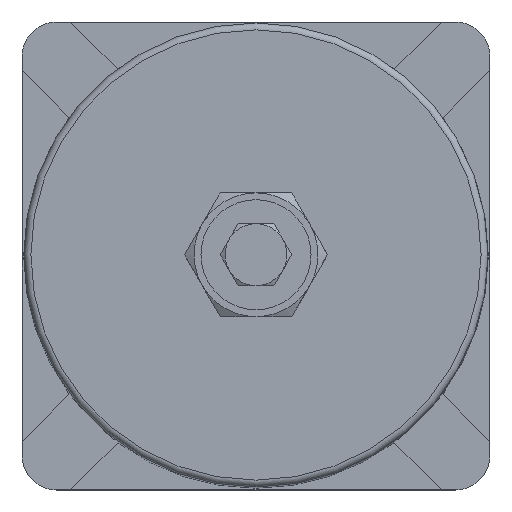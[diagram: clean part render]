
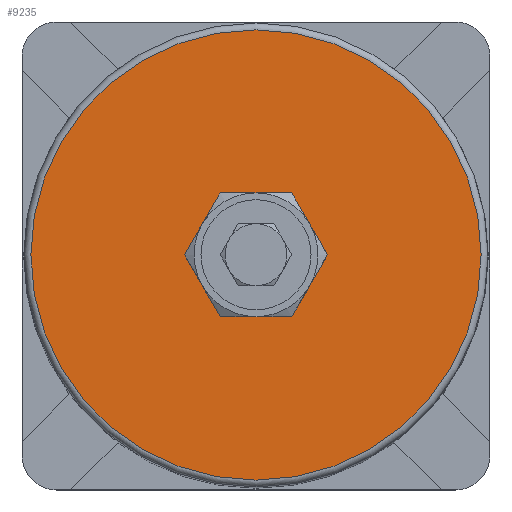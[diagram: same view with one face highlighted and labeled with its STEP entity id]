
A CAD part, top view. The second image highlights one B-rep face of the part: STEP entity #9235.
In plain terms, the highlighted planar face has unit normal (0, 0, 1).
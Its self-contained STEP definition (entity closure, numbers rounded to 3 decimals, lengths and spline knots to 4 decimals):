
#2027=FACE_BOUND('',#2801,.T.);
#2142=FACE_OUTER_BOUND('',#2800,.T.);
#2800=EDGE_LOOP('',(#5995));
#2801=EDGE_LOOP('',(#5996));
#3413=CIRCLE('',#9819,0.6606);
#3442=CIRCLE('',#9923,4.0892);
#3532=VERTEX_POINT('',#11039);
#3646=VERTEX_POINT('',#11509);
#4285=EDGE_CURVE('',#3532,#3532,#3413,.T.);
#4470=EDGE_CURVE('',#3646,#3646,#3442,.T.);
#5995=ORIENTED_EDGE('',*,*,#4470,.F.);
#5996=ORIENTED_EDGE('',*,*,#4285,.T.);
#8419=PLANE('',#9926);
#9235=ADVANCED_FACE('',(#2142,#2027),#8419,.T.);
#9819=AXIS2_PLACEMENT_3D('',#11040,#10143,#10144);
#9923=AXIS2_PLACEMENT_3D('',#11510,#10459,#10460);
#9926=AXIS2_PLACEMENT_3D('',#11514,#10465,#10466);
#10143=DIRECTION('center_axis',(0.,0.,
-1.));
#10144=DIRECTION('ref_axis',(0.,1.,0.));
#10459=DIRECTION('center_axis',(0.,0.,
-1.));
#10460=DIRECTION('ref_axis',(-1.,0.,0.));
#10465=DIRECTION('center_axis',(0.,0.,
1.));
#10466=DIRECTION('ref_axis',(1.,0.,0.));
#11039=CARTESIAN_POINT('',(0.,0.6606,11.));
#11040=CARTESIAN_POINT('Origin',(0.,0.,
11.));
#11509=CARTESIAN_POINT('',(4.0892,0.,11.));
#11510=CARTESIAN_POINT('Origin',(0.,0.,
11.));
#11514=CARTESIAN_POINT('Origin',(2.3867,0.,11.));
